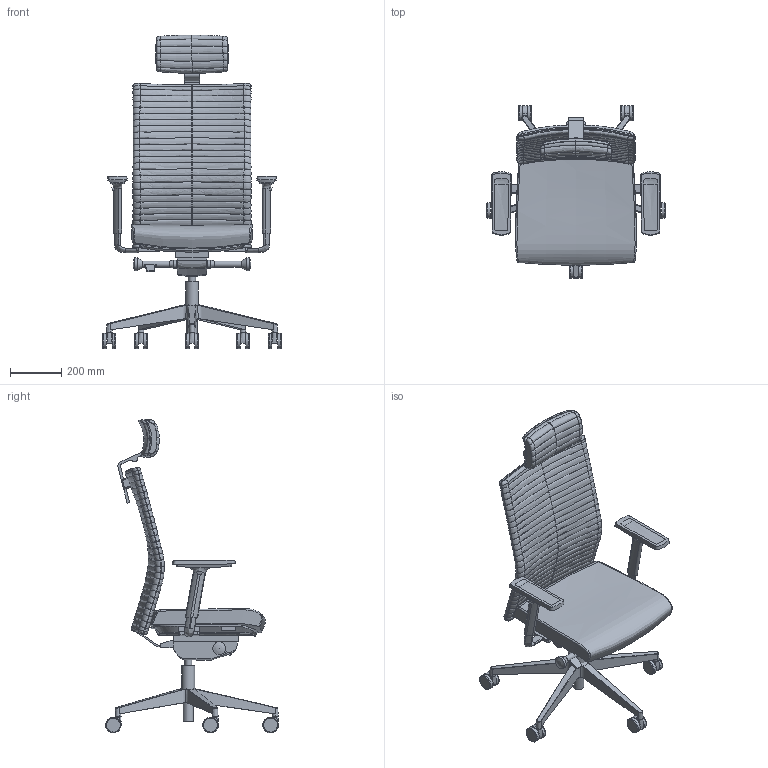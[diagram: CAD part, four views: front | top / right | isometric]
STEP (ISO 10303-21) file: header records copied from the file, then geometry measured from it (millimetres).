
FILE_DESCRIPTION(/* description */ (''),/* implementation_level */ '2;1');
FILE_NAME(/* name */ 'Element 430-SYQ,HO',/* time_stamp */ '2025-06-09T08:53:04+02:00',/* author */ (''),/* organization */ (''),/* preprocessor_version */ 'ST-DEVELOPER v19.2',/* originating_system */ 'Rhino 8.19',/* authorisation */ '');
FILE_SCHEMA (('INTEGRATED_CNC_SCHEMA'));
Length unit declared in the file: millimetre
Products named in the file (1): Document
Bounding box: 694.82 x 673.75 x 1223.17 mm (x, y, z)
Volume: 4606711.8 mm3; surface area: 2416125.8 mm2
Topology: 17 solids, 48 shells, 774 faces, 1805 edges, 1072 vertices
Faces by surface type: bspline 500, plane 192, cylinder 82
Full cylindrical faces by diameter (mm): 25 x2, 28 x1, 30 x2, 40 x1, 50 x3, 60 x10
Entity records: 61374 total; most frequent: CARTESIAN_POINT 49067, ORIENTED_EDGE 3311, EDGE_CURVE 1796, B_SPLINE_CURVE_WITH_KNOTS 1383, VERTEX_POINT 1072, EDGE_LOOP 778, ADVANCED_FACE 774, FACE_OUTER_BOUND 774
